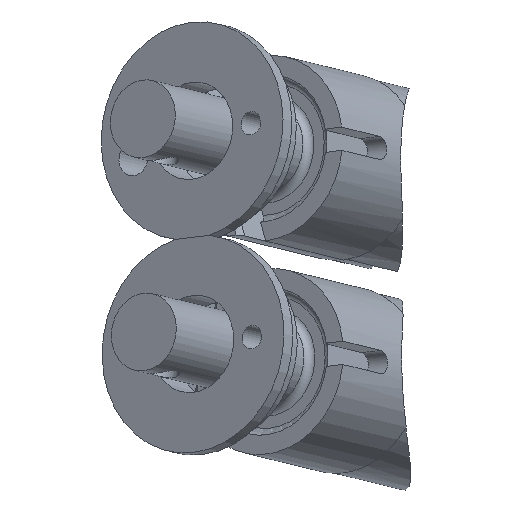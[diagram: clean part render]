
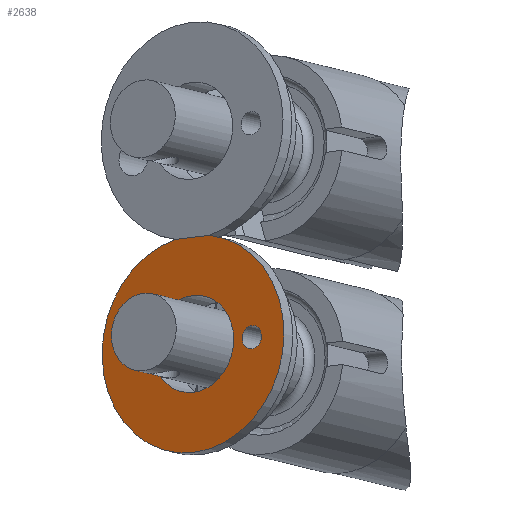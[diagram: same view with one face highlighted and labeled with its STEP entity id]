
A CAD part, left-side view. The second image highlights one B-rep face of the part: STEP entity #2638.
In plain terms, the highlighted planar face has unit normal (-0.814, 0.564, 0.137).
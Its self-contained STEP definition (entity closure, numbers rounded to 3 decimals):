
#56=FACE_BOUND('',#578,.T.);
#57=FACE_BOUND('',#579,.T.);
#58=FACE_BOUND('',#580,.T.);
#262=PLANE('',#2902);
#408=FACE_OUTER_BOUND('',#577,.T.);
#577=EDGE_LOOP('',(#2423,#2424));
#578=EDGE_LOOP('',(#2425));
#579=EDGE_LOOP('',(#2426));
#580=EDGE_LOOP('',(#2427));
#757=LINE('',#5485,#931);
#931=VECTOR('',#3566,10.);
#1024=CIRCLE('',#2895,1.5);
#1026=CIRCLE('',#2898,2.25);
#1028=CIRCLE('',#2903,14.);
#1029=CIRCLE('',#2904,6.25);
#1278=VERTEX_POINT('',#5406);
#1280=VERTEX_POINT('',#5412);
#1283=VERTEX_POINT('',#5482);
#1284=VERTEX_POINT('',#5483);
#1285=VERTEX_POINT('',#5486);
#1658=EDGE_CURVE('',#1278,#1278,#1024,.T.);
#1661=EDGE_CURVE('',#1280,#1280,#1026,.T.);
#1666=EDGE_CURVE('',#1283,#1284,#1028,.T.);
#1667=EDGE_CURVE('',#1284,#1283,#757,.T.);
#1668=EDGE_CURVE('',#1285,#1285,#1029,.T.);
#2423=ORIENTED_EDGE('',*,*,#1666,.T.);
#2424=ORIENTED_EDGE('',*,*,#1667,.T.);
#2425=ORIENTED_EDGE('',*,*,#1658,.T.);
#2426=ORIENTED_EDGE('',*,*,#1661,.T.);
#2427=ORIENTED_EDGE('',*,*,#1668,.T.);
#2638=ADVANCED_FACE('',(#408,#56,#57,#58),#262,.T.);
#2895=AXIS2_PLACEMENT_3D('',#5407,#3545,#3546);
#2898=AXIS2_PLACEMENT_3D('',#5413,#3552,#3553);
#2902=AXIS2_PLACEMENT_3D('',#5481,#3562,#3563);
#2903=AXIS2_PLACEMENT_3D('',#5484,#3564,#3565);
#2904=AXIS2_PLACEMENT_3D('',#5487,#3567,#3568);
#3545=DIRECTION('center_axis',(0.814,-0.564,-0.137));
#3546=DIRECTION('ref_axis',(0.166,0.,0.986));
#3552=DIRECTION('center_axis',(0.814,-0.564,-0.137));
#3553=DIRECTION('ref_axis',(0.166,0.,0.986));
#3562=DIRECTION('center_axis',(-0.814,0.564,0.137));
#3563=DIRECTION('ref_axis',(0.166,0.,0.986));
#3564=DIRECTION('center_axis',(-0.814,0.564,0.137));
#3565=DIRECTION('ref_axis',(0.27,0.16,0.949));
#3566=DIRECTION('',(0.555,0.826,-0.099));
#3567=DIRECTION('center_axis',(0.814,-0.564,-0.137));
#3568=DIRECTION('ref_axis',(0.166,0.,0.986));
#5406=CARTESIAN_POINT('',(-30.736,158.747,32.404));
#5407=CARTESIAN_POINT('Origin',(-30.487,158.747,33.883));
#5412=CARTESIAN_POINT('',(-20.372,173.685,32.517));
#5413=CARTESIAN_POINT('Origin',(-19.998,173.685,34.736));
#5481=CARTESIAN_POINT('Origin',(-25.473,166.221,32.921));
#5482=CARTESIAN_POINT('',(-21.667,168.457,46.328));
#5483=CARTESIAN_POINT('',(-24.592,164.107,46.85));
#5484=CARTESIAN_POINT('Origin',(-25.454,166.221,33.037));
#5485=CARTESIAN_POINT('',(-21.667,168.457,46.328));
#5486=CARTESIAN_POINT('',(-26.491,166.221,26.874));
#5487=CARTESIAN_POINT('Origin',(-25.454,166.221,33.037));
